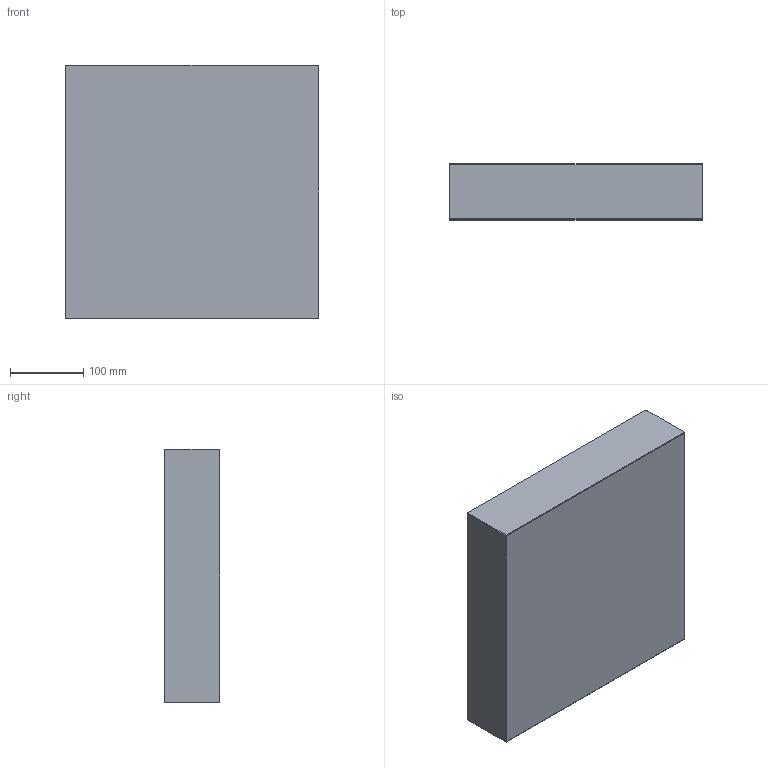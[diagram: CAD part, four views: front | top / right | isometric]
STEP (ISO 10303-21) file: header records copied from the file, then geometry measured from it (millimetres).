
FILE_DESCRIPTION (( 'STEP AP214' ), '1' );
FILE_NAME ('PC-P-346x346x76.STEP', '2020-04-01T10:02:00', ( 'August' ), ( '' ), 'SwSTEP 2.0', 'SolidWorks 2018', '' );
FILE_SCHEMA (( 'AUTOMOTIVE_DESIGN' ));
Length unit declared in the file: millimetre
Products named in the file (1): PC-P-346x346x76
Bounding box: 346 x 76 x 346 mm (x, y, z)
Volume: 9096885.3 mm3; surface area: 342813.5 mm2
Topology: 1 solids, 1 shells, 26 faces, 48 edges, 24 vertices
Faces by surface type: plane 26
Entity records: 634 total; most frequent: DIRECTION 102, CARTESIAN_POINT 99, ORIENTED_EDGE 96, EDGE_CURVE 48, LINE 48, VECTOR 48, AXIS2_PLACEMENT_3D 27, PLANE 26
